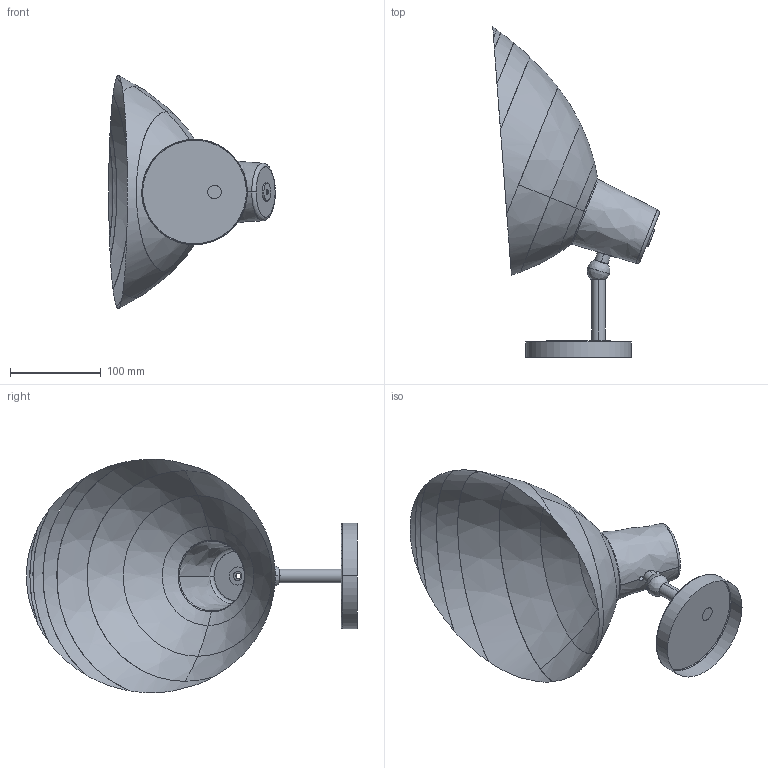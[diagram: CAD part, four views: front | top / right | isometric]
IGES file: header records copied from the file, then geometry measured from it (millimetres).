
Global section: file name: /Users/nicholas/Google Drive/astep/PR & Marketing /CAD Public/VV Cinquanta Wall/VV Cinquanta Wall CAD.igs; preprocessor: Trout Lake IGES 012 Jul 15 2015; date: 170609.101845; units: millimetre
Bounding box: 183.3 x 364.11 x 256.84 mm (x, y, z)
Surface area: 121980.1 mm2 (no closed solid volume)
Topology: 0 solids, 0 shells, 38 faces, 406 edges, 402 vertices
Faces by surface type: bspline 38
